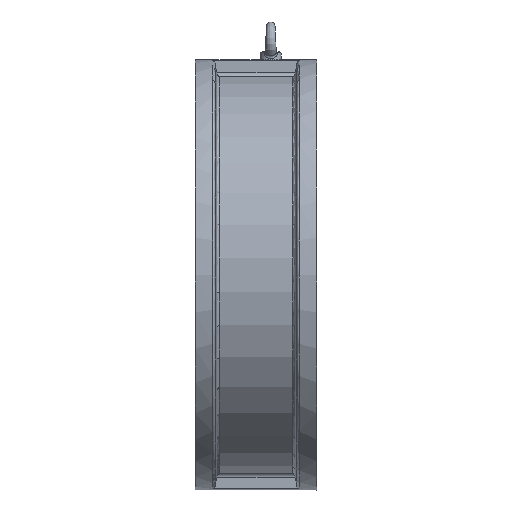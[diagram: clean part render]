
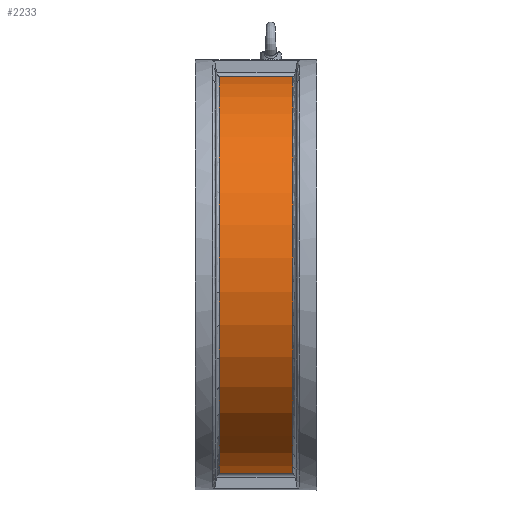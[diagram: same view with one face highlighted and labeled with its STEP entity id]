
A CAD part, left-side view. The second image highlights one B-rep face of the part: STEP entity #2233.
In plain terms, the highlighted cylindrical face has radius 230 mm (diameter 460 mm), a partial arc.
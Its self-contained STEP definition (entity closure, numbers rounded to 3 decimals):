
#130 = CARTESIAN_POINT ( 'NONE',  ( 3264.018, 1498.415, 0. ) ) ;
#413 = EDGE_CURVE ( 'NONE', #2284, #2377, #3760, .T. ) ;
#710 = CARTESIAN_POINT ( 'NONE',  ( 3264.018, 1377.999, 0. ) ) ;
#714 = EDGE_LOOP ( 'NONE', ( #1259, #8038, #7711, #6028 ) ) ;
#1153 = AXIS2_PLACEMENT_3D ( 'NONE', #7486, #1742, #8162 ) ;
#1164 = DIRECTION ( 'NONE',  ( 0., -1., 0. ) ) ;
#1259 = ORIENTED_EDGE ( 'NONE', *, *, #413, .F. ) ;
#1377 = DIRECTION ( 'NONE',  ( -1., 0., 0. ) ) ;
#1422 = DIRECTION ( 'NONE',  ( 0., 1., 0. ) ) ;
#1488 = LINE ( 'NONE', #4321, #3934 ) ;
#1742 = DIRECTION ( 'NONE',  ( 0., 1., 0. ) ) ;
#1830 = CARTESIAN_POINT ( 'NONE',  ( 3234.656, 1462.96, 228.118 ) ) ;
#2008 = DIRECTION ( 'NONE',  ( -1., 0., 0. ) ) ;
#2233 = ADVANCED_FACE ( 'NONE', ( #5970 ), #6574, .T. ) ;
#2284 = VERTEX_POINT ( 'NONE', #7255 ) ;
#2377 = VERTEX_POINT ( 'NONE', #1830 ) ;
#3760 = CIRCLE ( 'NONE', #1153, 230. ) ;
#3934 = VECTOR ( 'NONE', #1164, 1000. ) ;
#4321 = CARTESIAN_POINT ( 'NONE',  ( 3234.656, 1498.415, -228.118 ) ) ;
#4358 = LINE ( 'NONE', #5321, #6487 ) ;
#4507 = CARTESIAN_POINT ( 'NONE',  ( 3234.656, 1377.999, 228.118 ) ) ;
#4617 = CARTESIAN_POINT ( 'NONE',  ( 3234.656, 1377.999, -228.118 ) ) ;
#5028 = EDGE_CURVE ( 'NONE', #2284, #6950, #1488, .T. ) ;
#5250 = DIRECTION ( 'NONE',  ( 0., 1., 0. ) ) ;
#5321 = CARTESIAN_POINT ( 'NONE',  ( 3234.656, 1498.415, 228.118 ) ) ;
#5666 = AXIS2_PLACEMENT_3D ( 'NONE', #130, #7851, #1377 ) ;
#5970 = FACE_OUTER_BOUND ( 'NONE', #714, .T. ) ;
#6028 = ORIENTED_EDGE ( 'NONE', *, *, #8332, .T. ) ;
#6487 = VECTOR ( 'NONE', #1422, 1000. ) ;
#6574 = CYLINDRICAL_SURFACE ( 'NONE', #5666, 230. ) ;
#6633 = VERTEX_POINT ( 'NONE', #4507 ) ;
#6833 = AXIS2_PLACEMENT_3D ( 'NONE', #710, #5250, #2008 ) ;
#6906 = EDGE_CURVE ( 'NONE', #6950, #6633, #8317, .T. ) ;
#6950 = VERTEX_POINT ( 'NONE', #4617 ) ;
#7255 = CARTESIAN_POINT ( 'NONE',  ( 3234.656, 1462.96, -228.118 ) ) ;
#7486 = CARTESIAN_POINT ( 'NONE',  ( 3264.018, 1462.96, 0. ) ) ;
#7711 = ORIENTED_EDGE ( 'NONE', *, *, #6906, .T. ) ;
#7851 = DIRECTION ( 'NONE',  ( 0., 1., 0. ) ) ;
#8038 = ORIENTED_EDGE ( 'NONE', *, *, #5028, .T. ) ;
#8162 = DIRECTION ( 'NONE',  ( -1., 0., 0. ) ) ;
#8317 = CIRCLE ( 'NONE', #6833, 230. ) ;
#8332 = EDGE_CURVE ( 'NONE', #6633, #2377, #4358, .T. ) ;
